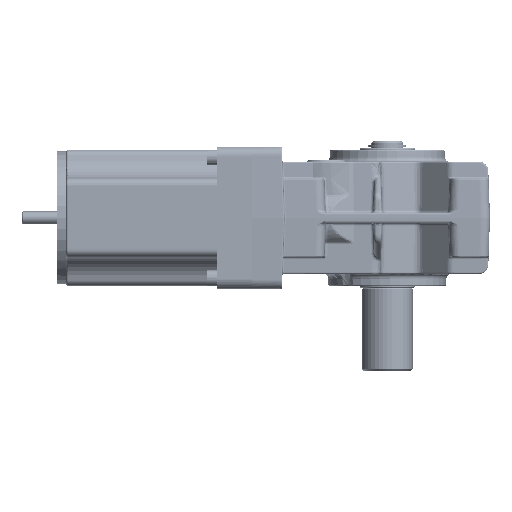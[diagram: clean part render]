
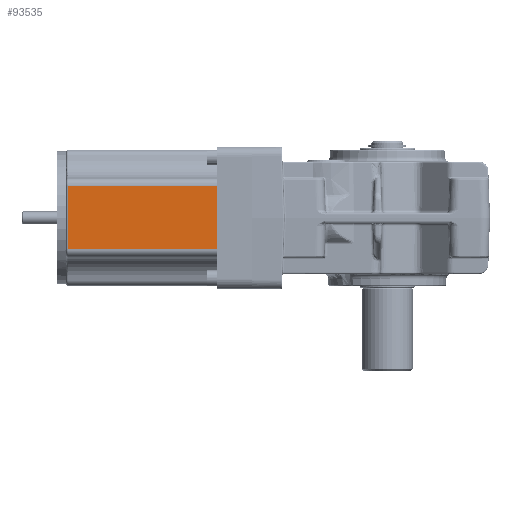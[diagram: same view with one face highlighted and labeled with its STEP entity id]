
A CAD part, front view. The second image highlights one B-rep face of the part: STEP entity #93535.
In plain terms, the highlighted planar face has unit normal (0, -1, 0).
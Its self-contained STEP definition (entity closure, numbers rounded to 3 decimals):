
#1387 = EDGE_LOOP ( 'NONE', ( #106152, #200200, #26729, #13611 ) ) ;
#13611 = ORIENTED_EDGE ( 'NONE', *, *, #53925, .T. ) ;
#26729 = ORIENTED_EDGE ( 'NONE', *, *, #265195, .T. ) ;
#50887 = DIRECTION ( 'NONE',  ( 0., 0., -1. ) ) ;
#53925 = EDGE_CURVE ( 'NONE', #128281, #201766, #218432, .T. ) ;
#60730 = CARTESIAN_POINT ( 'NONE',  ( -174.219, -71.091, 80.402 ) ) ;
#67662 = VERTEX_POINT ( 'NONE', #77736 ) ;
#77736 = CARTESIAN_POINT ( 'NONE',  ( -280.719, -71.091, 57.44 ) ) ;
#82139 = EDGE_CURVE ( 'NONE', #209708, #67662, #159084, .T. ) ;
#88154 = VECTOR ( 'NONE', #50887, 1000. ) ;
#88795 = CARTESIAN_POINT ( 'NONE',  ( -174.219, -71.091, 17.364 ) ) ;
#93535 = ADVANCED_FACE ( 'NONE', ( #158080 ), #244051, .F. ) ;
#95625 = DIRECTION ( 'NONE',  ( -1., 0., 0. ) ) ;
#95932 = CARTESIAN_POINT ( 'NONE',  ( -186.719, -71.091, 80.402 ) ) ;
#106152 = ORIENTED_EDGE ( 'NONE', *, *, #162520, .F. ) ;
#119892 = DIRECTION ( 'NONE',  ( 0., 0., -1. ) ) ;
#128281 = VERTEX_POINT ( 'NONE', #163977 ) ;
#134345 = CARTESIAN_POINT ( 'NONE',  ( -280.719, -71.091, 17.364 ) ) ;
#136654 = CARTESIAN_POINT ( 'NONE',  ( -186.719, -71.091, 17.364 ) ) ;
#155537 = LINE ( 'NONE', #134345, #160598 ) ;
#158080 = FACE_OUTER_BOUND ( 'NONE', #1387, .T. ) ;
#159084 = LINE ( 'NONE', #245023, #241056 ) ;
#160598 = VECTOR ( 'NONE', #220369, 1000. ) ;
#162520 = EDGE_CURVE ( 'NONE', #209708, #201766, #205909, .T. ) ;
#163977 = CARTESIAN_POINT ( 'NONE',  ( -280.719, -71.091, 17.364 ) ) ;
#172012 = AXIS2_PLACEMENT_3D ( 'NONE', #60730, #187648, #119892 ) ;
#187648 = DIRECTION ( 'NONE',  ( 0., 1., 0. ) ) ;
#200200 = ORIENTED_EDGE ( 'NONE', *, *, #82139, .T. ) ;
#201766 = VERTEX_POINT ( 'NONE', #136654 ) ;
#205909 = LINE ( 'NONE', #95932, #88154 ) ;
#209708 = VERTEX_POINT ( 'NONE', #236855 ) ;
#218432 = LINE ( 'NONE', #88795, #254071 ) ;
#220369 = DIRECTION ( 'NONE',  ( 0., 0., -1. ) ) ;
#236855 = CARTESIAN_POINT ( 'NONE',  ( -186.719, -71.091, 57.44 ) ) ;
#241056 = VECTOR ( 'NONE', #95625, 1000. ) ;
#242365 = DIRECTION ( 'NONE',  ( 1., 0., 0. ) ) ;
#244051 = PLANE ( 'NONE',  #172012 ) ;
#245023 = CARTESIAN_POINT ( 'NONE',  ( -174.219, -71.091, 57.44 ) ) ;
#254071 = VECTOR ( 'NONE', #242365, 1000. ) ;
#265195 = EDGE_CURVE ( 'NONE', #67662, #128281, #155537, .T. ) ;
